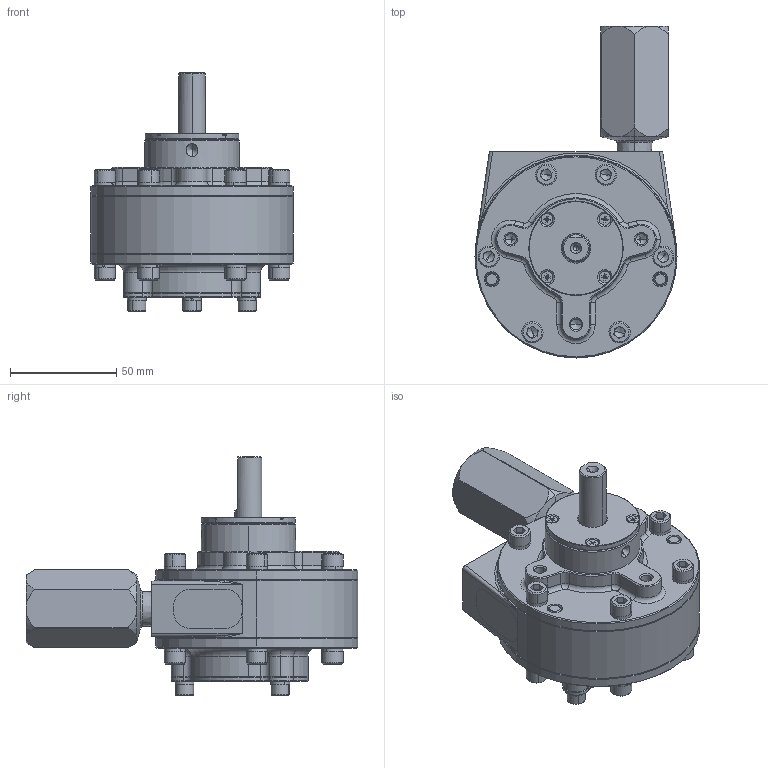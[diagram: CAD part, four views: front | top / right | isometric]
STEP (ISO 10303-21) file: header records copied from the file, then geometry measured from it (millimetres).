
FILE_DESCRIPTION (( 'STEP AP214' ), '1' );
FILE_NAME ('2VMT-SS (Hub).STEP', '2026-04-24T10:43:31', ( '' ), ( '' ), 'SwSTEP 2.0', 'SolidWorks 2017', '' );
FILE_SCHEMA (( 'AUTOMOTIVE_DESIGN' ));
Length unit declared in the file: millimetre
Products named in the file (2): 2VMT-SS (Hub)
Bounding box: 95 x 156 x 111.95 mm (x, y, z)
Surface area: 101344.2 mm2 (no closed solid volume)
Topology: 0 solids, 47 shells, 1422 faces, 3474 edges, 2119 vertices
Faces by surface type: plane 548, cylinder 376, cone 358, torus 124, bspline 10, sphere 6
Entity records: 58218 total; most frequent: CARTESIAN_POINT 9049, DIRECTION 7377, ORIENTED_EDGE 6605, EDGE_CURVE 3410, AXIS2_PLACEMENT_3D 2849, VERTEX_POINT 2117, LINE 1679, VECTOR 1679
